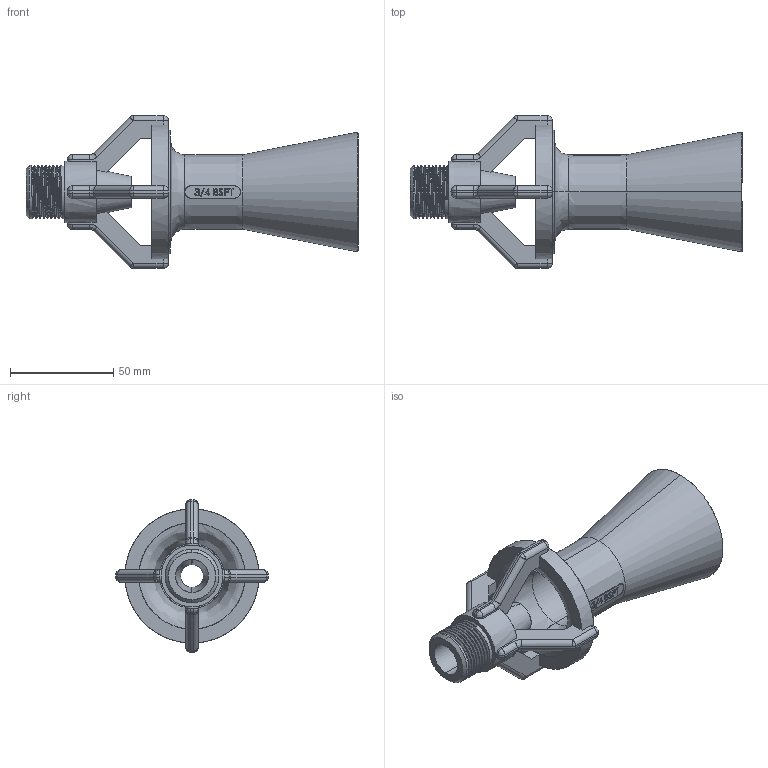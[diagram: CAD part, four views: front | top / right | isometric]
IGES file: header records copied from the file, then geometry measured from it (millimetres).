
Start section: SolidWorks IGES file using analytic representation for surfaces
Global section: file name: D:\Roztøídìné trysky\Ejektory modely\sld-modely\Bete\Bete_75560-3_4.IGS; native system: SolidWorks 2016; preprocessor: SolidWorks 2016; author: PC; date: 170226.161940; units: millimetre
Bounding box: 160.93 x 74 x 74 mm (x, y, z)
Surface area: 42931.6 mm2 (no closed solid volume)
Topology: 0 solids, 0 shells, 414 faces, 5527 edges, 5501 vertices
Faces by surface type: bspline 287, revolution 127
